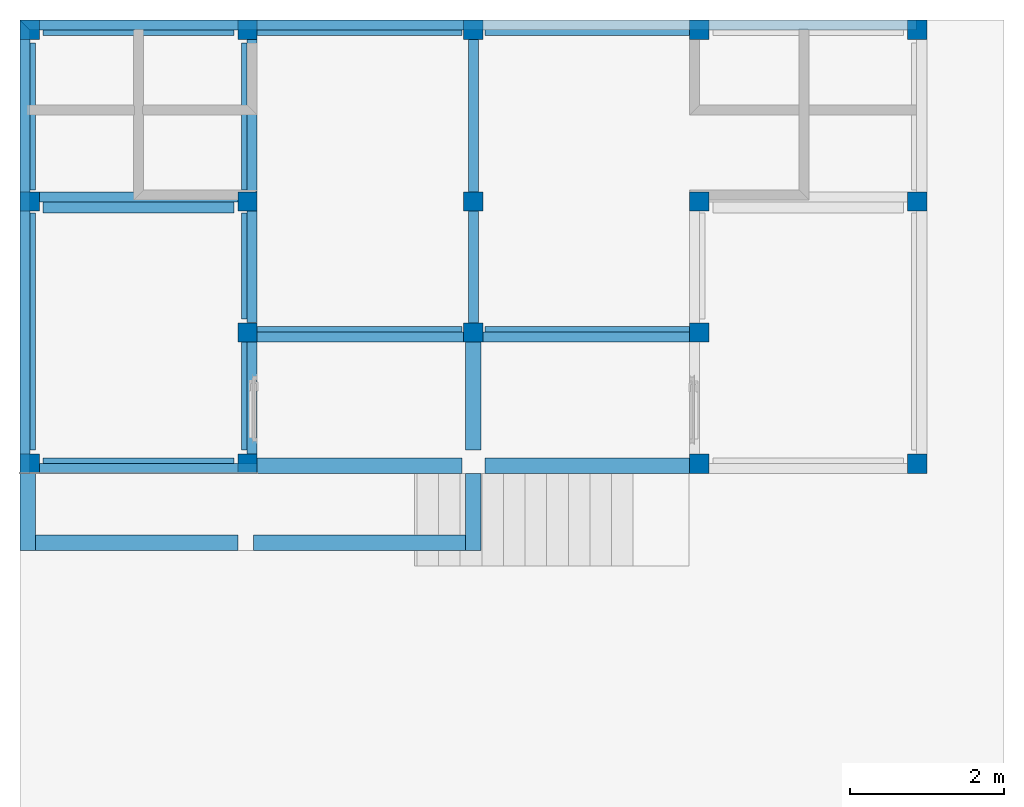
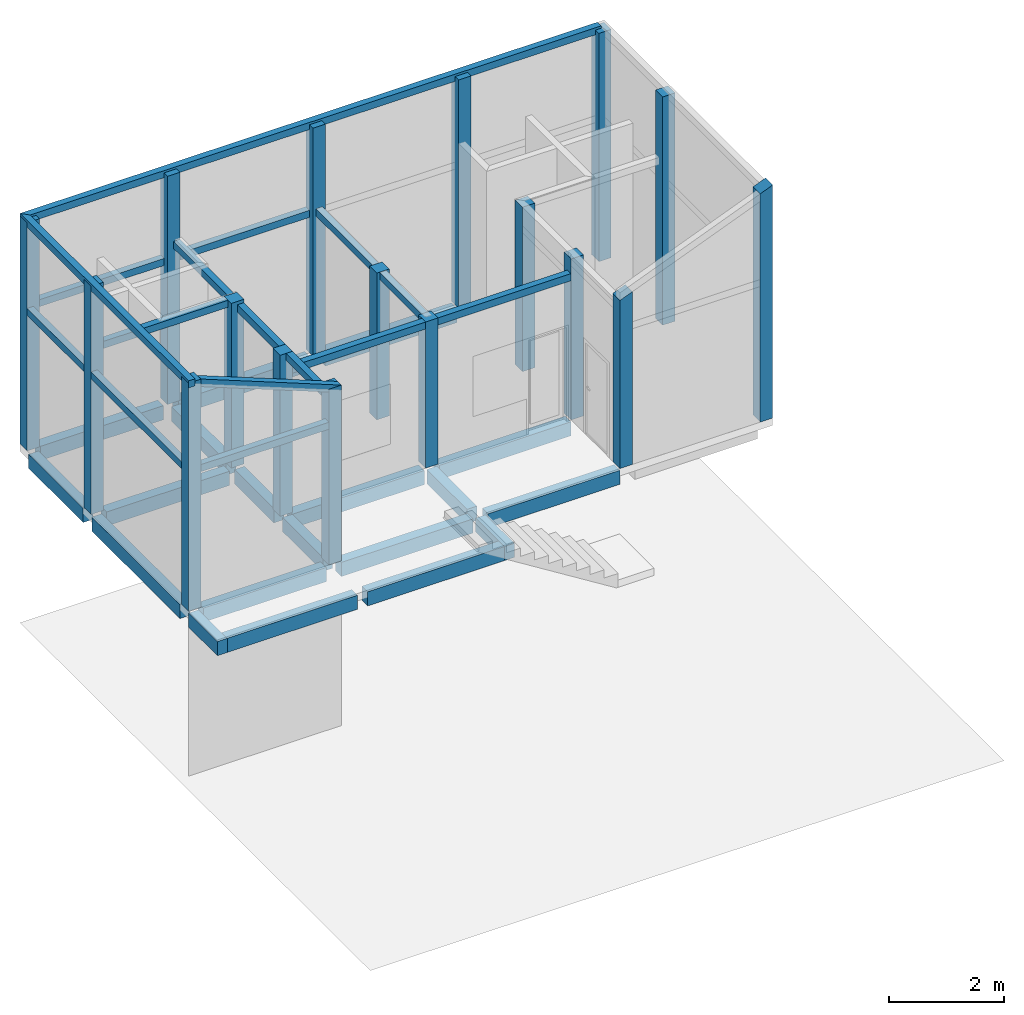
# One storey, part 1 of 8: 34 beams, 17 columns.
"""IFC4X3_ADD2 building model written with IfcOpenShell, lengths in millimetres."""

from ifc_helpers import new_model, entity, si_unit, converted_unit, frame, origin_with_axes, origin_2d_with_axis, place, context, subcontext, project, spatial, rectangle, extrude, clip, halfspace, material, material_profile, profile_set, profile_usage, type_object, element, save


model = new_model("IFC4X3_ADD2")

# Units and contexts
model_context = context("Model", 3, precision=1e-05, world=origin_with_axes())
plan_context = context("Plan", 2, precision=1e-05, world=origin_2d_with_axis())
body_context = subcontext(model_context, "Body", "Model", "MODEL_VIEW")
ifc_project = project(units=[si_unit("VOLUMEUNIT", "CUBIC_METRE"), si_unit("LENGTHUNIT", "METRE", prefix="MILLI"), converted_unit("PLANEANGLEUNIT", "degree", entity("IfcReal", 0.0174532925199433), si_unit("PLANEANGLEUNIT", "RADIAN"), dimensions=[0, 0, 0, 0, 0, 0, 0]), si_unit("AREAUNIT", "SQUARE_METRE")], contexts=[model_context, plan_context])

# Site, building, storey
site_placement = place(None, origin_with_axes())
site = spatial("IfcSite", under=ifc_project, at=site_placement, Name="My Site")
building_placement = place(site_placement, origin_with_axes())
building = spatial("IfcBuilding", under=site, at=building_placement, Name="My Building")
storey_placement = place(building_placement, origin_with_axes())
storey = spatial("IfcBuildingStorey", under=building, at=storey_placement, Name="Lantai 2")

# Columns
ifc_material = material(Name="plester")
ifc_material_profile_1 = material_profile(ifc_material, rectangle(XDim=250.0, YDim=250.0))
ifc_profile_set_1 = profile_set([ifc_material_profile_1])
ifc_profile_usage_1 = profile_usage(ifc_profile_set_1)
column_type = type_object("IfcColumnType", Name="K2", PredefinedType="COLUMN", material=ifc_profile_set_1)
column_1_placement = place(storey_placement, frame((2795.00079154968, 3369.99988555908, 3500.00023841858), z_axis=(0.0, 0.0, 1.0), x_axis=(1.0, 0.0, 0.0)))
element("IfcColumn", 1, at=column_1_placement, inside=storey, type_object=column_type, material=ifc_profile_usage_1, Name="Column", context=body_context, shape_type="SweptSolid", body=[
    extrude(rectangle(XDim=250.0, YDim=250.0), origin_with_axes(), (0.0, 0.0, 1.0), 3500.00027247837),
])
ifc_profile_usage_2 = profile_usage(ifc_profile_set_1)
column_2_placement = place(storey_placement, frame((-25.0000357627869, -24.9995365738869, 3500.00023841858), z_axis=(0.0, 0.0, 1.0), x_axis=(1.0, 0.0, 0.0)))
element("IfcColumn", 2, at=column_2_placement, inside=storey, type_object=column_type, material=ifc_profile_usage_2, Name="Column", context=body_context, shape_type="SweptSolid", body=[
    extrude(rectangle(XDim=250.0, YDim=250.0), origin_with_axes(), (0.0, 0.0, 1.0), 4850.00029888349),
])
ifc_profile_usage_3 = profile_usage(ifc_profile_set_1)
column_3_placement = place(storey_placement, frame((-25.0000357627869, 5594.99979019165, 3500.00023841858), z_axis=(0.0, 0.0, 1.0), x_axis=(1.0, 0.0, 0.0)))
element("IfcColumn", 3, at=column_3_placement, inside=storey, type_object=column_type, material=ifc_profile_usage_3, Name="Column", context=body_context, shape_type="SweptSolid", body=[
    extrude(rectangle(XDim=250.0, YDim=250.0), origin_with_axes(), (0.0, 0.0, 1.0), 4850.00029888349),
])
ifc_profile_usage_4 = profile_usage(ifc_profile_set_1)
column_4_placement = place(storey_placement, frame((5720.00026702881, 1675.00019073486, 3500.00023841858), z_axis=(0.0, 0.0, 1.0), x_axis=(1.0, 0.0, 0.0)))
element("IfcColumn", 4, at=column_4_placement, inside=storey, type_object=column_type, material=ifc_profile_usage_4, Name="Column", context=body_context, shape_type="SweptSolid", body=[
    extrude(rectangle(XDim=250.0, YDim=250.0), origin_with_axes(), (0.0, 0.0, 1.0), 3107.21087263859),
])
ifc_profile_usage_5 = profile_usage(ifc_profile_set_1)
column_5_placement = place(storey_placement, frame((8645.00045776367, -24.9995365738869, 3500.00023841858), z_axis=(0.0, 0.0, 1.0), x_axis=(1.0, 0.0, 0.0)))
element("IfcColumn", 5, at=column_5_placement, inside=storey, type_object=column_type, material=ifc_profile_usage_5, Name="Column", context=body_context, shape_type="Clipping", body=[
    clip(extrude(rectangle(XDim=250.0, YDim=250.0), origin_with_axes(), (0.0, 0.0, 1.0), 3872.80531229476), halfspace(frame((-209.256172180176, -125.999242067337, 3539.96443748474), z_axis=(-0.368086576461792, 5.96046447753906e-08, 0.929791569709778), x_axis=(1.61931047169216e-07, 0.999999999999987, 0.0)), False)),
])
ifc_profile_usage_6 = profile_usage(ifc_profile_set_1)
column_6_placement = place(storey_placement, frame((8645.00045776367, 3369.99988555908, 3500.00023841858), z_axis=(0.0, 0.0, 1.0), x_axis=(1.0, 0.0, 0.0)))
element("IfcColumn", 6, at=column_6_placement, inside=storey, type_object=column_type, material=ifc_profile_usage_6, Name="Column", context=body_context, shape_type="SweptSolid", body=[
    extrude(rectangle(XDim=250.0, YDim=250.0), origin_with_axes(), (0.0, 0.0, 1.0), 3494.1231570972),
])
ifc_profile_usage_7 = profile_usage(ifc_profile_set_1)
column_7_placement = place(storey_placement, frame((11465.0001525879, 3369.99988555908, 3500.00023841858), z_axis=(0.0, 0.0, 1.0), x_axis=(1.0, 0.0, 0.0)))
element("IfcColumn", 7, at=column_7_placement, inside=storey, type_object=column_type, material=ifc_profile_usage_7, Name="Column", context=body_context, shape_type="SweptSolid", body=[
    extrude(rectangle(XDim=250.0, YDim=250.0), origin_with_axes(), (0.0, 0.0, 1.0), 4850.00029888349),
])
ifc_profile_usage_8 = profile_usage(ifc_profile_set_1)
column_8_placement = place(storey_placement, frame((2795.00079154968, 5594.99979019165, 3500.00023841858), z_axis=(0.0, 0.0, 1.0), x_axis=(1.0, 0.0, 0.0)))
element("IfcColumn", 8, at=column_8_placement, inside=storey, type_object=column_type, material=ifc_profile_usage_8, Name="Column", context=body_context, shape_type="SweptSolid", body=[
    extrude(rectangle(XDim=250.0, YDim=250.0), origin_with_axes(), (0.0, 0.0, 1.0), 4850.00029888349),
])
ifc_profile_usage_9 = profile_usage(ifc_profile_set_1)
column_9_placement = place(storey_placement, frame((8645.00045776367, 1675.00019073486, 3500.00023841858), z_axis=(0.0, 0.0, 1.0), x_axis=(1.0, 0.0, 0.0)))
element("IfcColumn", 9, at=column_9_placement, inside=storey, type_object=column_type, material=ifc_profile_usage_9, Name="Column", context=body_context, shape_type="SweptSolid", body=[
    extrude(rectangle(XDim=250.0, YDim=250.0), origin_with_axes(), (0.0, 0.0, 1.0), 3422.07593632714),
])
ifc_profile_usage_10 = profile_usage(ifc_profile_set_1)
column_10_placement = place(storey_placement, frame((-25.0000357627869, 3369.99988555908, 3500.00023841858), z_axis=(0.0, 0.0, 1.0), x_axis=(1.0, 0.0, 0.0)))
element("IfcColumn", 10, at=column_10_placement, inside=storey, type_object=column_type, material=ifc_profile_usage_10, Name="Column", context=body_context, shape_type="SweptSolid", body=[
    extrude(rectangle(XDim=250.0, YDim=250.0), origin_with_axes(), (0.0, 0.0, 1.0), 4850.00029888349),
])
ifc_profile_usage_11 = profile_usage(ifc_profile_set_1)
column_11_placement = place(storey_placement, frame((2795.00079154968, -24.9995365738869, 3500.00023841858), z_axis=(0.0, 0.0, 1.0), x_axis=(1.0, 0.0, 0.0)))
element("IfcColumn", 11, at=column_11_placement, inside=storey, type_object=column_type, material=ifc_profile_usage_11, Name="Column", context=body_context, shape_type="SweptSolid", body=[
    extrude(rectangle(XDim=250.0, YDim=250.0), origin_with_axes(), (0.0, 0.0, 1.0), 3734.64556236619),
])
ifc_profile_usage_12 = profile_usage(ifc_profile_set_1)
column_12_placement = place(storey_placement, frame((5720.00026702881, 5594.99979019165, 3500.00023841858), z_axis=(0.0, 0.0, 1.0), x_axis=(1.0, 0.0, 0.0)))
element("IfcColumn", 12, at=column_12_placement, inside=storey, type_object=column_type, material=ifc_profile_usage_12, Name="Column", context=body_context, shape_type="SweptSolid", body=[
    extrude(rectangle(XDim=250.0, YDim=250.0), origin_with_axes(), (0.0, 0.0, 1.0), 4850.00029888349),
])
ifc_profile_usage_13 = profile_usage(ifc_profile_set_1)
column_13_placement = place(storey_placement, frame((8645.00045776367, 5594.99979019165, 3500.00023841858), z_axis=(0.0, 0.0, 1.0), x_axis=(1.0, 0.0, 0.0)))
element("IfcColumn", 13, at=column_13_placement, inside=storey, type_object=column_type, material=ifc_profile_usage_13, Name="Column", context=body_context, shape_type="SweptSolid", body=[
    extrude(rectangle(XDim=250.0, YDim=250.0), origin_with_axes(), (0.0, 0.0, 1.0), 4850.00029888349),
])
ifc_profile_usage_14 = profile_usage(ifc_profile_set_1)
column_14_placement = place(storey_placement, frame((11465.0001525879, -24.9995365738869, 3500.00023841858), z_axis=(0.0, 0.0, 1.0), x_axis=(1.0, 0.0, 0.0)))
element("IfcColumn", 14, at=column_14_placement, inside=storey, type_object=column_type, material=ifc_profile_usage_14, Name="Column", context=body_context, shape_type="Clipping", body=[
    clip(extrude(rectangle(XDim=250.0, YDim=250.0), origin_with_axes(), (0.0, 0.0, 1.0), 5150.51561015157), halfspace(frame((-3084.46884155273, -125.999242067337, 3679.43358421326), z_axis=(-0.368086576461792, 5.96046447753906e-08, 0.929791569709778), x_axis=(1.61931047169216e-07, 0.999999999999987, 0.0)), False)),
])
ifc_profile_usage_15 = profile_usage(ifc_profile_set_1)
column_15_placement = place(storey_placement, frame((2795.00079154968, 1675.00019073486, 3500.00023841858), z_axis=(0.0, 0.0, 1.0), x_axis=(1.0, 0.0, 0.0)))
element("IfcColumn", 15, at=column_15_placement, inside=storey, type_object=column_type, material=ifc_profile_usage_15, Name="Column", context=body_context, shape_type="SweptSolid", body=[
    extrude(rectangle(XDim=250.0, YDim=250.0), origin_with_axes(), (0.0, 0.0, 1.0), 3422.2838275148),
])
ifc_profile_usage_16 = profile_usage(ifc_profile_set_1)
column_16_placement = place(storey_placement, frame((5720.00026702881, 3369.99988555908, 3500.00023841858), z_axis=(0.0, 0.0, 1.0), x_axis=(1.0, 0.0, 0.0)))
element("IfcColumn", 16, at=column_16_placement, inside=storey, type_object=column_type, material=ifc_profile_usage_16, Name="Column", context=body_context, shape_type="SweptSolid", body=[
    extrude(rectangle(XDim=250.0, YDim=250.0), origin_with_axes(), (0.0, 0.0, 1.0), 3119.99966156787),
])
ifc_profile_usage_17 = profile_usage(ifc_profile_set_1)
column_17_placement = place(storey_placement, frame((11465.0001525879, 5594.99979019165, 3500.00023841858), z_axis=(0.0, 0.0, 1.0), x_axis=(1.0, 0.0, 0.0)))
element("IfcColumn", 17, at=column_17_placement, inside=storey, type_object=column_type, material=ifc_profile_usage_17, Name="Column", context=body_context, shape_type="SweptSolid", body=[
    extrude(rectangle(XDim=250.0, YDim=250.0), origin_with_axes(), (0.0, 0.0, 1.0), 4850.00029888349),
])

# Beams
ifc_material_profile_2 = material_profile(ifc_material, rectangle(XDim=200.0, YDim=300.0))
ifc_profile_set_2 = profile_set([ifc_material_profile_2])
ifc_profile_usage_18 = profile_usage(ifc_profile_set_2, cardinal=9)
beam_type_1 = type_object("IfcBeamType", Name="TB1", PredefinedType="BEAM", material=ifc_profile_set_2)
beam_1_placement = place(storey_placement, frame((150.000005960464, 3219.99979019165, 3465.00015258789), z_axis=(0.999999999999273, -9.09962693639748e-07, 7.90753631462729e-07), x_axis=(9.09962921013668e-07, 0.999999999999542, -2.98022911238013e-07)))
element("IfcBeam", 18, at=beam_1_placement, inside=storey, type_object=beam_type_1, material=ifc_profile_usage_18, Name="Beam", context=body_context, shape_type="SweptSolid", body=[
    extrude(rectangle(XDim=200.0, YDim=300.0), frame((100.0, -150.0, 0.0), z_axis=(0.0, 0.0, 1.0), x_axis=(1.0, 0.0, 0.0)), (0.0, 0.0, 1.0), 2469.99974548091),
])
ifc_profile_usage_19 = profile_usage(ifc_profile_set_2, cardinal=9)
beam_2_placement = place(storey_placement, frame((2920.00007629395, 3519.99998092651, 3465.00015258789), z_axis=(-1.5099578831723e-07, 0.999999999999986, 7.54979012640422e-08), x_axis=(-0.999999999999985, -1.50995802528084e-07, 8.74228405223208e-08)))
element("IfcBeam", 19, at=beam_2_placement, inside=storey, type_object=beam_type_1, material=ifc_profile_usage_19, Name="Beam", context=body_context, shape_type="SweptSolid", body=[
    extrude(rectangle(XDim=200.0, YDim=300.0), frame((100.0, -150.0, 0.0), z_axis=(0.0, 0.0, 1.0), x_axis=(1.0, 0.0, 0.0)), (0.0, 0.0, 1.0), 1899.99959594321),
])
ifc_profile_usage_20 = profile_usage(ifc_profile_set_2, cardinal=9)
beam_3_placement = place(storey_placement, frame((2920.00007629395, 150.000005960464, 3461.11464500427), z_axis=(-1.5099578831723e-07, 0.999999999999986, 7.54979012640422e-08), x_axis=(-0.999999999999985, -1.50995802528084e-07, 8.74228121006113e-08)))
element("IfcBeam", 20, at=beam_3_placement, inside=storey, type_object=beam_type_1, material=ifc_profile_usage_20, Name="Beam", context=body_context, shape_type="SweptSolid", body=[
    extrude(rectangle(XDim=200.0, YDim=300.0), frame((100.0, -150.0, 0.0), z_axis=(0.0, 0.0, 1.0), x_axis=(1.0, 0.0, 0.0)), (0.0, 0.0, 1.0), 1399.99984332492),
])
ifc_profile_usage_21 = profile_usage(ifc_profile_set_2, cardinal=9)
beam_4_placement = place(storey_placement, frame((2619.99988555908, 5719.99979019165, 3465.00015258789), z_axis=(-0.999999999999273, -9.09962693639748e-07, 7.90753631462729e-07), x_axis=(9.09962921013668e-07, -0.999999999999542, 2.98022911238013e-07)))
element("IfcBeam", 21, at=beam_4_placement, inside=storey, type_object=beam_type_1, material=ifc_profile_usage_21, Name="Beam", context=body_context, shape_type="SweptSolid", body=[
    extrude(rectangle(XDim=200.0, YDim=300.0), frame((100.0, -150.0, 0.0), z_axis=(0.0, 0.0, 1.0), x_axis=(1.0, 0.0, 0.0)), (0.0, 0.0, 1.0), 2469.99974548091),
])
ifc_profile_usage_22 = profile_usage(ifc_profile_set_2, cardinal=9)
beam_5_placement = place(storey_placement, frame((2920.00007629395, -150.000005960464, 3465.00015258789), z_axis=(0.999999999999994, -7.54979012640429e-08, 7.54979012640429e-08), x_axis=(7.54979012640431e-08, 0.999999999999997, 7.16093850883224e-15)))
element("IfcBeam", 22, at=beam_5_placement, inside=storey, type_object=beam_type_1, material=ifc_profile_usage_22, Name="Beam", context=body_context, shape_type="SweptSolid", body=[
    extrude(rectangle(XDim=200.0, YDim=300.0), frame((100.0, -150.0, 0.0), z_axis=(0.0, 0.0, 1.0), x_axis=(1.0, 0.0, 0.0)), (0.0, 0.0, 1.0), 2650.00009716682),
])
ifc_profile_usage_23 = profile_usage(ifc_profile_set_2, cardinal=9)
beam_6_placement = place(storey_placement, frame((-150.000005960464, 3219.99979019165, 3465.00015258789), z_axis=(0.0, -0.999999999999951, 3.13916473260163e-07), x_axis=(1.0, 0.0, 0.0)))
element("IfcBeam", 23, at=beam_6_placement, inside=storey, type_object=beam_type_1, material=ifc_profile_usage_23, Name="Beam", context=body_context, shape_type="SweptSolid", body=[
    extrude(rectangle(XDim=200.0, YDim=300.0), frame((100.0, -150.0, 0.0), z_axis=(0.0, 0.0, 1.0), x_axis=(1.0, 0.0, 0.0)), (0.0, 0.0, 1.0), 3069.99969830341),
])
ifc_profile_usage_24 = profile_usage(ifc_profile_set_2, cardinal=9)
beam_7_placement = place(storey_placement, frame((2920.00007629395, 1549.99983310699, 3461.11464500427), z_axis=(0.999999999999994, -7.54979012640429e-08, 7.54979012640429e-08), x_axis=(7.54979012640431e-08, 0.999999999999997, 7.16093850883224e-15)))
element("IfcBeam", 24, at=beam_7_placement, inside=storey, type_object=beam_type_1, material=ifc_profile_usage_24, Name="Beam", context=body_context, shape_type="SweptSolid", body=[
    extrude(rectangle(XDim=200.0, YDim=300.0), frame((100.0, -150.0, 0.0), z_axis=(0.0, 0.0, 1.0), x_axis=(1.0, 0.0, 0.0)), (0.0, 0.0, 1.0), 2650.00009716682),
])
ifc_profile_usage_25 = profile_usage(ifc_profile_set_2, cardinal=9)
beam_8_placement = place(storey_placement, frame((5870.00036239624, -150.000005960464, 3465.00015258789), z_axis=(0.999999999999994, -7.54979012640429e-08, 7.54979012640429e-08), x_axis=(7.54979012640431e-08, 0.999999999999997, 7.16093850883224e-15)))
element("IfcBeam", 25, at=beam_8_placement, inside=storey, type_object=beam_type_1, material=ifc_profile_usage_25, Name="Beam", context=body_context, shape_type="SweptSolid", body=[
    extrude(rectangle(XDim=200.0, YDim=300.0), frame((100.0, -150.0, 0.0), z_axis=(0.0, 0.0, 1.0), x_axis=(1.0, 0.0, 0.0)), (0.0, 0.0, 1.0), 2650.00009716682),
])
ifc_profile_usage_26 = profile_usage(ifc_profile_set_2, cardinal=9)
beam_9_placement = place(storey_placement, frame((2920.00007629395, 1849.99978542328, 3461.11464500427), z_axis=(1.51313824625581e-07, 0.999993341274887, 0.00364930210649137), x_axis=(-0.999999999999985, 1.50995802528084e-07, 8.74221584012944e-08)))
element("IfcBeam", 26, at=beam_9_placement, inside=storey, type_object=beam_type_1, material=ifc_profile_usage_26, Name="Beam", context=body_context, shape_type="SweptSolid", body=[
    extrude(rectangle(XDim=200.0, YDim=300.0), frame((100.0, -150.0, 0.0), z_axis=(0.0, 0.0, 1.0), x_axis=(1.0, 0.0, 0.0)), (0.0, 0.0, 1.0), 1370.00910858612),
])
ifc_profile_usage_27 = profile_usage(ifc_profile_set_2, cardinal=9)
beam_10_placement = place(storey_placement, frame((-150.000005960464, 5419.99959945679, 3465.00015258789), z_axis=(0.0, -0.999999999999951, 3.13916473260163e-07), x_axis=(1.0, 0.0, 0.0)))
element("IfcBeam", 27, at=beam_10_placement, inside=storey, type_object=beam_type_1, material=ifc_profile_usage_27, Name="Beam", context=body_context, shape_type="SweptSolid", body=[
    extrude(rectangle(XDim=200.0, YDim=300.0), frame((100.0, -150.0, 0.0), z_axis=(0.0, 0.0, 1.0), x_axis=(1.0, 0.0, 0.0)), (0.0, 0.0, 1.0), 1899.99959594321),
])
ifc_profile_usage_28 = profile_usage(ifc_profile_set_2, cardinal=9)
beam_11_placement = place(storey_placement, frame((5570.00017166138, 5719.99979019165, 3465.00015258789), z_axis=(-0.999999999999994, -7.54979012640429e-08, 7.54979012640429e-08), x_axis=(7.54979012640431e-08, -0.999999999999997, -7.16093850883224e-15)))
element("IfcBeam", 28, at=beam_11_placement, inside=storey, type_object=beam_type_1, material=ifc_profile_usage_28, Name="Beam", context=body_context, shape_type="SweptSolid", body=[
    extrude(rectangle(XDim=200.0, YDim=300.0), frame((100.0, -150.0, 0.0), z_axis=(0.0, 0.0, 1.0), x_axis=(1.0, 0.0, 0.0)), (0.0, 0.0, 1.0), 2650.00009716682),
])
ifc_profile_usage_29 = profile_usage(ifc_profile_set_2, cardinal=9)
beam_12_placement = place(storey_placement, frame((150.000005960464, -150.000005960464, 3465.00015258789), z_axis=(0.999999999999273, -9.09962693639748e-07, 7.90753631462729e-07), x_axis=(9.09962921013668e-07, 0.999999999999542, -2.98022911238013e-07)))
element("IfcBeam", 29, at=beam_12_placement, inside=storey, type_object=beam_type_1, material=ifc_profile_usage_29, Name="Beam", context=body_context, shape_type="SweptSolid", body=[
    extrude(rectangle(XDim=200.0, YDim=300.0), frame((100.0, -150.0, 0.0), z_axis=(0.0, 0.0, 1.0), x_axis=(1.0, 0.0, 0.0)), (0.0, 0.0, 1.0), 2469.99974548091),
])
ifc_profile_usage_30 = profile_usage(ifc_profile_set_2, cardinal=9)
beam_13_placement = place(storey_placement, frame((5870.00036239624, 1549.99983310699, 3461.11464500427), z_axis=(0.999998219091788, -1.9470705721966e-07, 0.00188727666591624), x_axis=(1.94707183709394e-07, 0.999999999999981, 1.12486027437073e-10)))
element("IfcBeam", 30, at=beam_13_placement, inside=storey, type_object=beam_type_1, material=ifc_profile_usage_30, Name="Beam", context=body_context, shape_type="SweptSolid", body=[
    extrude(rectangle(XDim=200.0, YDim=300.0), frame((100.0, -150.0, 0.0), z_axis=(0.0, 0.0, 1.0), x_axis=(1.0, 0.0, 0.0)), (0.0, 0.0, 1.0), 2650.00481413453),
])
ifc_profile_usage_31 = profile_usage(ifc_profile_set_2, cardinal=9)
beam_14_placement = place(storey_placement, frame((8520.00045776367, 5719.99979019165, 3465.00015258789), z_axis=(-0.999999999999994, -7.54979012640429e-08, 7.54979012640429e-08), x_axis=(7.54979012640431e-08, -0.999999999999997, -7.16093850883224e-15)))
element("IfcBeam", 31, at=beam_14_placement, inside=storey, type_object=beam_type_1, material=ifc_profile_usage_31, Name="Beam", context=body_context, shape_type="SweptSolid", body=[
    extrude(rectangle(XDim=200.0, YDim=300.0), frame((100.0, -150.0, 0.0), z_axis=(0.0, 0.0, 1.0), x_axis=(1.0, 0.0, 0.0)), (0.0, 0.0, 1.0), 2649.99964732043),
])
ifc_profile_usage_32 = profile_usage(ifc_profile_set_2, cardinal=8)
beam_15_placement = place(storey_placement, frame((-49.999974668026, -149.999529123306, 3465.00015258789), z_axis=(-4.47034800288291e-08, -0.999999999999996, 7.5497901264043e-08), x_axis=(0.999999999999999, -4.47034800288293e-08, 0.0)))
element("IfcBeam", 32, at=beam_15_placement, inside=storey, type_object=beam_type_1, material=ifc_profile_usage_32, Name="Beam", context=body_context, shape_type="SweptSolid", body=[
    extrude(rectangle(XDim=200.0, YDim=300.0), frame((0.0, -150.0, 0.0), z_axis=(0.0, 0.0, 1.0), x_axis=(1.0, 0.0, 0.0)), (0.0, 0.0, 1.0), 1000.0),
])
ifc_profile_usage_33 = profile_usage(ifc_profile_set_2, cardinal=8)
beam_16_placement = place(storey_placement, frame((5719.99979019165, -149.999529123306, 3465.00015258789), z_axis=(-4.47034800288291e-08, -0.999999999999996, 7.5497901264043e-08), x_axis=(0.999999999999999, -4.47034800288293e-08, 0.0)))
element("IfcBeam", 33, at=beam_16_placement, inside=storey, type_object=beam_type_1, material=ifc_profile_usage_33, Name="Beam", context=body_context, shape_type="SweptSolid", body=[
    extrude(rectangle(XDim=200.0, YDim=300.0), frame((0.0, -150.0, 0.0), z_axis=(0.0, 0.0, 1.0), x_axis=(1.0, 0.0, 0.0)), (0.0, 0.0, 1.0), 1000.0),
])
ifc_profile_usage_34 = profile_usage(ifc_profile_set_2, cardinal=9)
beam_17_placement = place(storey_placement, frame((49.9999225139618, -1149.99949932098, 3465.00015258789), z_axis=(0.999999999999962, -1.94707169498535e-07, 1.9470718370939e-07), x_axis=(1.94707183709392e-07, 0.999999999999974, -1.19209289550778e-07)))
element("IfcBeam", 34, at=beam_17_placement, inside=storey, type_object=beam_type_1, material=ifc_profile_usage_34, Name="Beam", context=body_context, shape_type="SweptSolid", body=[
    extrude(rectangle(XDim=200.0, YDim=300.0), frame((100.0, -150.0, 0.0), z_axis=(0.0, 0.0, 1.0), x_axis=(1.0, 0.0, 0.0)), (0.0, 0.0, 1.0), 2620.00016481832),
])
ifc_profile_usage_35 = profile_usage(ifc_profile_set_2, cardinal=9)
beam_18_placement = place(storey_placement, frame((2870.00012397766, -1149.99949932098, 3465.00015258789), z_axis=(0.999999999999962, -1.94707169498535e-07, 1.9470718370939e-07), x_axis=(1.94707183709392e-07, 0.999999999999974, -1.19209289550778e-07)))
element("IfcBeam", 35, at=beam_18_placement, inside=storey, type_object=beam_type_1, material=ifc_profile_usage_35, Name="Beam", context=body_context, shape_type="SweptSolid", body=[
    extrude(rectangle(XDim=200.0, YDim=300.0), frame((100.0, -150.0, 0.0), z_axis=(0.0, 0.0, 1.0), x_axis=(1.0, 0.0, 0.0)), (0.0, 0.0, 1.0), 2749.99973990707),
])
ifc_profile_usage_36 = profile_usage(ifc_profile_set_2, cardinal=8)
beam_19_placement = place(storey_placement, frame((5720.00026702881, 1549.99983310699, 3465.00015258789), z_axis=(0.0, -0.999999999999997, 7.54979012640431e-08), x_axis=(1.0, 0.0, 0.0)))
element("IfcBeam", 36, at=beam_19_placement, inside=storey, type_object=beam_type_1, material=ifc_profile_usage_36, Name="Beam", context=body_context, shape_type="SweptSolid", body=[
    extrude(rectangle(XDim=200.0, YDim=300.0), frame((0.0, -150.0, 0.0), z_axis=(0.0, 0.0, 1.0), x_axis=(1.0, 0.0, 0.0)), (0.0, 0.0, 1.0), 1399.99984332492),
])
ifc_material_profile_3 = material_profile(ifc_material, rectangle(XDim=130.000015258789, YDim=150.0))
ifc_profile_set_3 = profile_set([ifc_material_profile_3])
ifc_profile_usage_37 = profile_usage(ifc_profile_set_3, cardinal=9)
beam_type_2 = type_object("IfcBeamType", Name="RB", PredefinedType="BEAM", material=ifc_profile_set_3)
beam_20_placement = place(storey_placement, frame((11460.0019454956, 5719.970703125, 8398.53572845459), z_axis=(-0.999999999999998, 4.37113873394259e-08, -4.37113873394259e-08), x_axis=(-4.37113873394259e-08, -0.999999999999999, 0.0)))
element("IfcBeam", 37, at=beam_20_placement, inside=storey, type_object=beam_type_2, material=ifc_profile_usage_37, Name="Beam", context=body_context, shape_type="Clipping", body=[
    clip(extrude(rectangle(XDim=130.000015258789, YDim=150.0), frame((65.0000076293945, -75.0, 0.0), z_axis=(0.0, 0.0, 1.0), x_axis=(1.0, 0.0, 0.0)), (0.0, 0.0, 1.0), 11610.0025854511), halfspace(frame((0.000483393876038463, -8398.53477478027, 11610.0025177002), z_axis=(0.707106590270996, 9.27258980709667e-08, 0.70710700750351), x_axis=(1.31134258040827e-07, -0.999999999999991, 0.0)), False)),
])
ifc_profile_usage_38 = profile_usage(ifc_profile_set_3, cardinal=9)
beam_21_placement = place(storey_placement, frame((-19.9995040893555, -150.999471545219, 8398.53572845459), z_axis=(-8.74227765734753e-08, 0.999999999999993, 7.54979012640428e-08), x_axis=(-0.999999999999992, -8.74227765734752e-08, 8.74227836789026e-08)))
element("IfcBeam", 38, at=beam_21_placement, inside=storey, type_object=beam_type_2, material=ifc_profile_usage_38, Name="Beam", context=body_context, shape_type="Clipping", body=[
    clip(extrude(rectangle(XDim=130.000015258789, YDim=150.0), frame((65.0000076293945, -75.0, 0.0), z_axis=(0.0, 0.0, 1.0), x_axis=(1.0, 0.0, 0.0)), (0.0, 0.0, 1.0), 5870.97029768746), halfspace(frame((129.999995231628, -8398.53572845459, 5870.96977233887), z_axis=(-0.707107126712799, -5.33850474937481e-08, 0.707106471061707), x_axis=(-7.54978213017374e-08, 0.999999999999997, 0.0)), False)),
])
ifc_profile_usage_39 = profile_usage(ifc_profile_set_3, cardinal=9)
beam_22_placement = place(storey_placement, frame((2920.00007629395, -19.9999958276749, 7234.64584350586), z_axis=(-0.929791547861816, 5.35491949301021e-09, 0.368086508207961), x_axis=(1.1924880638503e-08, -0.999999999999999, 4.46704007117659e-08)))
element("IfcBeam", 39, at=beam_22_placement, inside=storey, type_object=beam_type_2, material=ifc_profile_usage_39, Name="Beam", context=body_context, shape_type="Clipping", body=[
    clip(extrude(rectangle(XDim=130.000015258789, YDim=150.0), frame((65.0000076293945, -75.0, 0.0), z_axis=(0.0, 0.0, 1.0), x_axis=(1.0, 0.0, 0.0)), (0.0, 0.0, 1.0), 3182.93806005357), halfspace(frame((4.99933864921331, -4510.44511795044, 1247.33972549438), z_axis=(-1.19248788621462e-08, -0.368086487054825, 0.929791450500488), x_axis=(-1.0, 3.23969482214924e-08, 0.0)), False)),
])
ifc_profile_usage_40 = profile_usage(ifc_profile_set_3, cardinal=9)
beam_23_placement = place(storey_placement, frame((2920.00007629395, 1800.28522014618, 6921.89502716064), z_axis=(1.5131380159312e-07, 0.999993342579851, 0.00364894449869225), x_axis=(-0.999999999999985, 1.50995802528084e-07, 8.74221370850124e-08)))
element("IfcBeam", 40, at=beam_23_placement, inside=storey, type_object=beam_type_2, material=ifc_profile_usage_40, Name="Beam", context=body_context, shape_type="Clipping", body=[
    clip(extrude(rectangle(XDim=130.000015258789, YDim=150.0), frame((65.0000076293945, -75.0, 0.0), z_axis=(0.0, 0.0, 1.0), x_axis=(1.0, 0.0, 0.0)), (0.0, 0.0, 1.0), 1594.72439752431), halfspace(frame((124.999366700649, -3427.14428901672, 1432.21879005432), z_axis=(1.50995816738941e-07, -0.00364894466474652, 0.99999338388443), x_axis=(-0.999999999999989, 0.0, 1.50996815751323e-07)), False)),
])
ifc_profile_usage_41 = profile_usage(ifc_profile_set_3, cardinal=9)
beam_24_placement = place(storey_placement, frame((99.9999642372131, -149.999961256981, 6532.21082687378), z_axis=(0.999999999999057, -1.0291719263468e-06, 9.09962921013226e-07), x_axis=(1.02917226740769e-06, 0.999999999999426, -2.98022797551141e-07)))
element("IfcBeam", 41, at=beam_24_placement, inside=storey, type_object=beam_type_2, material=ifc_profile_usage_41, Name="Beam", context=body_context, shape_type="SweptSolid", body=[
    extrude(rectangle(XDim=130.000015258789, YDim=150.0), frame((65.0000076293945, -75.0, 0.0), z_axis=(0.0, 0.0, 1.0), x_axis=(1.0, 0.0, 0.0)), (0.0, 0.0, 1.0), 2570.00090499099),
])
ifc_profile_usage_42 = profile_usage(ifc_profile_set_3, cardinal=9)
beam_25_placement = place(storey_placement, frame((-150.000005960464, 3244.99988555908, 6532.21082687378), z_axis=(0.0, -0.999999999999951, 3.13916473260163e-07), x_axis=(1.0, 0.0, 0.0)))
element("IfcBeam", 42, at=beam_25_placement, inside=storey, type_object=beam_type_2, material=ifc_profile_usage_42, Name="Beam", context=body_context, shape_type="SweptSolid", body=[
    extrude(rectangle(XDim=130.000015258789, YDim=150.0), frame((65.0000076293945, -75.0, 0.0), z_axis=(0.0, 0.0, 1.0), x_axis=(1.0, 0.0, 0.0)), (0.0, 0.0, 1.0), 3144.9994798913),
])
ifc_profile_usage_43 = profile_usage(ifc_profile_set_3, cardinal=9)
beam_26_placement = place(storey_placement, frame((-150.000005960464, 5469.99979019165, 6532.21082687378), z_axis=(0.0, -0.999999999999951, 3.13916473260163e-07), x_axis=(1.0, 0.0, 0.0)))
element("IfcBeam", 43, at=beam_26_placement, inside=storey, type_object=beam_type_2, material=ifc_profile_usage_43, Name="Beam", context=body_context, shape_type="SweptSolid", body=[
    extrude(rectangle(XDim=130.000015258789, YDim=150.0), frame((65.0000076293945, -75.0, 0.0), z_axis=(0.0, 0.0, 1.0), x_axis=(1.0, 0.0, 0.0)), (0.0, 0.0, 1.0), 1974.99987686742),
])
ifc_profile_usage_44 = profile_usage(ifc_profile_set_3, cardinal=9)
beam_27_placement = place(storey_placement, frame((5695.00064849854, 1549.99983310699, 6606.9278717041), z_axis=(0.999998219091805, -7.55542762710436e-08, 0.00188727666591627), x_axis=(7.54979012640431e-08, 0.999999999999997, 2.99429281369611e-08)))
element("IfcBeam", 44, at=beam_27_placement, inside=storey, type_object=beam_type_2, material=ifc_profile_usage_44, Name="Beam", context=body_context, shape_type="Clipping", body=[
    clip(extrude(rectangle(XDim=130.000015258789, YDim=150.0), frame((65.0000076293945, -75.0, 0.0), z_axis=(0.0, 0.0, 1.0), x_axis=(1.0, 0.0, 0.0)), (0.0, 0.0, 1.0), 2825.0048047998), halfspace(frame((125.000193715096, -3028.27286720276, 144.284442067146), z_axis=(-7.54979012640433e-08, 0.00188727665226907, -0.999998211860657), x_axis=(0.999999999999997, 0.0, -7.54980362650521e-08)), False)),
])
ifc_profile_usage_45 = profile_usage(ifc_profile_set_3, cardinal=9)
beam_28_placement = place(storey_placement, frame((2920.00007629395, 100.000470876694, 6922.07622528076), z_axis=(-1.5099578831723e-07, 0.999999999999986, 7.54979012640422e-08), x_axis=(-0.999999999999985, -1.50995802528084e-07, 8.74228192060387e-08)))
element("IfcBeam", 45, at=beam_28_placement, inside=storey, type_object=beam_type_2, material=ifc_profile_usage_45, Name="Beam", context=body_context, shape_type="SweptSolid", body=[
    extrude(rectangle(XDim=130.000015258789, YDim=150.0), frame((65.0000076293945, -75.0, 0.0), z_axis=(0.0, 0.0, 1.0), x_axis=(1.0, 0.0, 0.0)), (0.0, 0.0, 1.0), 1449.99932913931),
])
ifc_profile_usage_46 = profile_usage(ifc_profile_set_3, cardinal=9)
beam_29_placement = place(storey_placement, frame((2920.00007629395, 3494.99988555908, 6925.9614944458), z_axis=(-1.5099578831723e-07, 0.999999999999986, 7.54979012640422e-08), x_axis=(-0.999999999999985, -1.50995802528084e-07, 8.74228476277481e-08)))
element("IfcBeam", 46, at=beam_29_placement, inside=storey, type_object=beam_type_2, material=ifc_profile_usage_46, Name="Beam", context=body_context, shape_type="SweptSolid", body=[
    extrude(rectangle(XDim=130.000015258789, YDim=150.0), frame((65.0000076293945, -75.0, 0.0), z_axis=(0.0, 0.0, 1.0), x_axis=(1.0, 0.0, 0.0)), (0.0, 0.0, 1.0), 1974.99987686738),
])
ifc_profile_usage_47 = profile_usage(ifc_profile_set_3, cardinal=9)
beam_30_placement = place(storey_placement, frame((2670.00079154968, 5719.99979019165, 6532.21082687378), z_axis=(-0.999999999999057, -1.0291719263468e-06, 9.09962921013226e-07), x_axis=(1.02917226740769e-06, -0.999999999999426, 2.98022797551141e-07)))
element("IfcBeam", 47, at=beam_30_placement, inside=storey, type_object=beam_type_2, material=ifc_profile_usage_47, Name="Beam", context=body_context, shape_type="SweptSolid", body=[
    extrude(rectangle(XDim=130.000015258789, YDim=150.0), frame((65.0000076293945, -75.0, 0.0), z_axis=(0.0, 0.0, 1.0), x_axis=(1.0, 0.0, 0.0)), (0.0, 0.0, 1.0), 2570.00090499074),
])
ifc_profile_usage_48 = profile_usage(ifc_profile_set_3, cardinal=9)
beam_31_placement = place(storey_placement, frame((2920.00007629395, 1549.99983310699, 6607.25831985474), z_axis=(0.999999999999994, -7.54979012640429e-08, 7.54979012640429e-08), x_axis=(7.54979012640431e-08, 0.999999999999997, 7.16093850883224e-15)))
element("IfcBeam", 48, at=beam_31_placement, inside=storey, type_object=beam_type_2, material=ifc_profile_usage_48, Name="Beam", context=body_context, shape_type="SweptSolid", body=[
    extrude(rectangle(XDim=130.000015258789, YDim=150.0), frame((65.0000076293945, -75.0, 0.0), z_axis=(0.0, 0.0, 1.0), x_axis=(1.0, 0.0, 0.0)), (0.0, 0.0, 1.0), 2675.00015330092),
])
ifc_profile_usage_49 = profile_usage(ifc_profile_set_3)
beam_32_placement = place(storey_placement, frame((99.9999642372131, 3430.00245094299, 6918.92242431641), z_axis=(0.999999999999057, -1.0291719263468e-06, 9.09962921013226e-07), x_axis=(1.02917226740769e-06, 0.999999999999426, -2.98022797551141e-07)))
element("IfcBeam", 49, at=beam_32_placement, inside=storey, type_object=beam_type_2, material=ifc_profile_usage_49, Name="Beam", context=body_context, shape_type="SweptSolid", body=[
    extrude(rectangle(XDim=130.000015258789, YDim=150.0), origin_with_axes(), (0.0, 0.0, 1.0), 2570.00090499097),
])
ifc_profile_usage_50 = profile_usage(ifc_profile_set_3, cardinal=9)
beam_33_placement = place(storey_placement, frame((5595.00026702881, 5719.99979019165, 6532.21082687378), z_axis=(-0.999999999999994, -7.54979012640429e-08, 7.54979012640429e-08), x_axis=(7.54979012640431e-08, -0.999999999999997, -7.16093850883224e-15)))
element("IfcBeam", 50, at=beam_33_placement, inside=storey, type_object=beam_type_2, material=ifc_profile_usage_50, Name="Beam", context=body_context, shape_type="SweptSolid", body=[
    extrude(rectangle(XDim=130.000015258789, YDim=150.0), frame((65.0000076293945, -75.0, 0.0), z_axis=(0.0, 0.0, 1.0), x_axis=(1.0, 0.0, 0.0)), (0.0, 0.0, 1.0), 2674.99944027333),
])
ifc_profile_usage_51 = profile_usage(ifc_profile_set_3, cardinal=9)
beam_34_placement = place(storey_placement, frame((5785.00175476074, 1650.0004529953, 6605.15117645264), z_axis=(1.51052035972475e-07, 0.999998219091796, 0.00188727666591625), x_axis=(-0.999999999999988, 1.50995802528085e-07, 2.99429245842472e-08)))
element("IfcBeam", 51, at=beam_34_placement, inside=storey, type_object=beam_type_2, material=ifc_profile_usage_51, Name="Beam", context=body_context, shape_type="Clipping", body=[
    clip(clip(extrude(rectangle(XDim=130.000015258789, YDim=150.0), frame((65.0000076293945, -75.0, 0.0), z_axis=(0.0, 0.0, 1.0), x_axis=(1.0, 0.0, 0.0)), (0.0, 0.0, 1.0), 3970.00641228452), halfspace(frame((65.0014653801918, -3112.35427856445, 3814.13197517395), z_axis=(1.50995788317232e-07, -0.00188727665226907, 0.999998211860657), x_axis=(-0.999999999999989, 0.0, 1.50996058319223e-07)), False)), halfspace(frame((65.0009140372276, -3105.42798042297, 144.139274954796), z_axis=(-1.50995788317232e-07, 0.00188727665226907, -0.999998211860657), x_axis=(0.999999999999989, 0.0, -1.50996058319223e-07)), False)),
])

save(model, "model.ifc")
